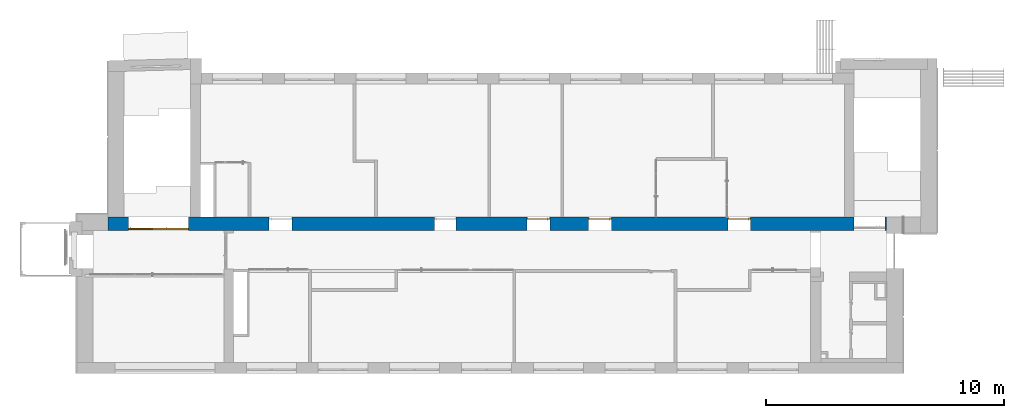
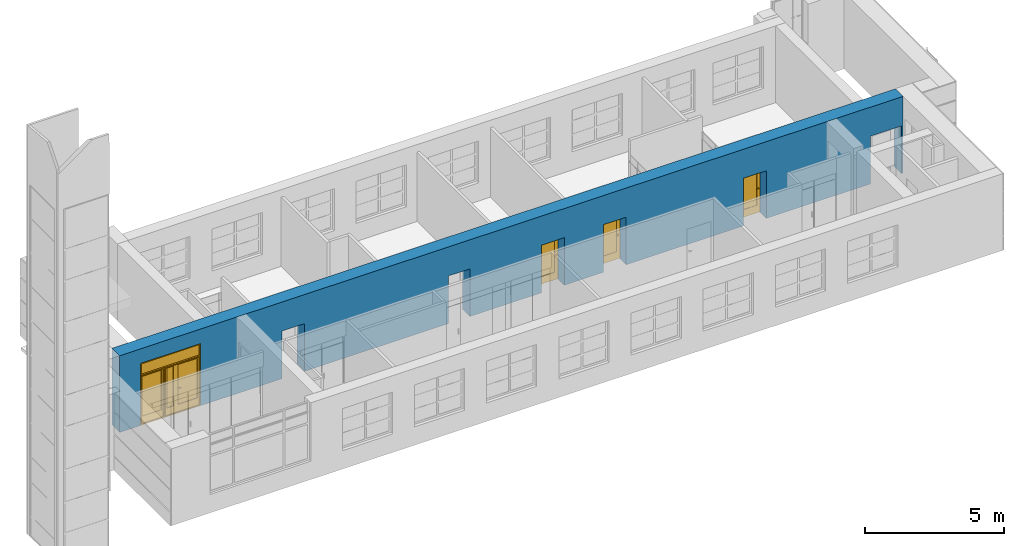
"""IFC2X3 building model written with IfcOpenShell, lengths in millimetres."""

from ifc_helpers import new_model, entity, si_unit, converted_unit, derived_unit, direction, frame, frame_2d, origin, origin_2d_with_axis, place, context, subcontext, project, spatial, rectangle, extrude, faceted_brep, source, transform, mapped, material, material_list, layer, layer_set, layer_usage, type_object, type_shapes, element, fill, save


model = new_model("IFC2X3")

# Units and contexts
model_context = context("Model", 3, precision=0.01, world=origin(), true_north=direction((6.12303176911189e-17, 1.0)))
body_context = subcontext(model_context, "Body", "Model", "MODEL_VIEW")
ifc_project = project(units=[si_unit("LENGTHUNIT", "METRE", prefix="MILLI"), si_unit("AREAUNIT", "SQUARE_METRE"), si_unit("VOLUMEUNIT", "CUBIC_METRE"), converted_unit("PLANEANGLEUNIT", "DEGREE", entity("IfcRatioMeasure", 0.0174532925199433), si_unit("PLANEANGLEUNIT", "RADIAN"), dimensions=[0, 0, 0, 0, 0, 0, 0]), si_unit("MASSUNIT", "GRAM", prefix="KILO"), derived_unit("MASSDENSITYUNIT", [(si_unit("MASSUNIT", "GRAM", prefix="KILO"), 1), (si_unit("LENGTHUNIT", "METRE"), -3)]), si_unit("TIMEUNIT", "SECOND"), si_unit("FREQUENCYUNIT", "HERTZ"), si_unit("THERMODYNAMICTEMPERATUREUNIT", "DEGREE_CELSIUS"), derived_unit("THERMALTRANSMITTANCEUNIT", [(si_unit("MASSUNIT", "GRAM", prefix="KILO"), 1), (si_unit("THERMODYNAMICTEMPERATUREUNIT", "KELVIN"), -1), (si_unit("TIMEUNIT", "SECOND"), -3)]), derived_unit("VOLUMETRICFLOWRATEUNIT", [(si_unit("LENGTHUNIT", "METRE"), 3), (si_unit("TIMEUNIT", "SECOND"), -1)]), si_unit("ELECTRICCURRENTUNIT", "AMPERE"), si_unit("ELECTRICVOLTAGEUNIT", "VOLT"), si_unit("POWERUNIT", "WATT"), si_unit("FORCEUNIT", "NEWTON", prefix="KILO"), si_unit("ILLUMINANCEUNIT", "LUX"), si_unit("LUMINOUSFLUXUNIT", "LUMEN"), si_unit("LUMINOUSINTENSITYUNIT", "CANDELA"), derived_unit("USERDEFINED", [(si_unit("MASSUNIT", "GRAM", prefix="KILO"), -1), (si_unit("LENGTHUNIT", "METRE"), -2), (si_unit("TIMEUNIT", "SECOND"), 3), (si_unit("LUMINOUSFLUXUNIT", "LUMEN"), 1)]), derived_unit("LINEARVELOCITYUNIT", [(si_unit("LENGTHUNIT", "METRE"), 1), (si_unit("TIMEUNIT", "SECOND"), -1)]), si_unit("PRESSUREUNIT", "PASCAL"), derived_unit("USERDEFINED", [(si_unit("LENGTHUNIT", "METRE"), -2), (si_unit("MASSUNIT", "GRAM", prefix="KILO"), 1), (si_unit("TIMEUNIT", "SECOND"), -2)])], contexts=[model_context])

# Site, building, storey
site_placement = place(None, frame((-151.875543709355, 2715.0, 0.0)))
site = spatial("IfcSite", under=ifc_project, at=site_placement, Name="Surface", CompositionType="ELEMENT")
building_placement = place(site_placement, origin())
building = spatial("IfcBuilding", under=site, at=building_placement, CompositionType="ELEMENT")
storey_1_placement = place(building_placement, frame((0.0, 0.0, 3350.0)))
storey_1 = spatial("IfcBuildingStorey", under=building, at=storey_1_placement, Name="2 korrus", CompositionType="ELEMENT", Elevation=3350.00000000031)

# Wall, openings, doors
ifc_material_1 = material(Name="__Kips GN13_tava")
ifc_layer_1 = layer(ifc_material_1, 20.0)
ifc_material_2 = material(Name="Masonry - Brick")
ifc_layer_2 = layer(ifc_material_2, 510.0)
ifc_layer_3 = layer(ifc_material_1, 20.0)
ifc_layer_set = layer_set([ifc_layer_1, ifc_layer_2, ifc_layer_3], Name="Basic Wall:SS-1")
ifc_layer_usage = layer_usage(ifc_layer_set, "AXIS2", "POSITIVE", -275.0)
wall_type = type_object("IfcWallType", Name="Basic Wall:SS-1", PredefinedType="STANDARD", material=ifc_layer_set)
wall_placement = place(storey_1_placement, frame((1091.0, 6285.0, 0.0)))
wall = element("IfcWallStandardCase", 1, at=wall_placement, inside=storey_1, type_object=wall_type, material=ifc_layer_usage, Name="SEIN - 002", ObjectType="Basic Wall:SS-1", context=body_context, shape_type="SweptSolid", body=[
    extrude(rectangle(XDim=32650.6162682, YDim=550.000000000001, at=frame_2d((16325.3081341, 0.0), x_axis=(-1.0, 0.0))), origin(), (0.0, 0.0, 1.0), 3380.43203354),
])
opening_1_placement = place(wall_placement, origin())
element("IfcOpeningElement", 2, at=opening_1_placement, cuts=wall, Name="SEIN - 002", ObjectType="Opening", context=body_context, shape_type="SweptSolid", body=[
    extrude(rectangle(XDim=2099.99999999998, YDim=950.000000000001, at=origin_2d_with_axis()), frame((17904.2662258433, -1249.0, 4430.4300000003), z_axis=(0.0, 1.0, 0.0), x_axis=(0.0, 0.0, 1.0)), (0.0, 0.0, 1.0), 3048.0),
])
opening_2_placement = place(wall_placement, origin())
element("IfcOpeningElement", 3, at=opening_2_placement, cuts=wall, Name="SEIN - 002", ObjectType="Opening", context=body_context, shape_type="SweptSolid", body=[
    extrude(rectangle(XDim=2099.99999999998, YDim=950.000000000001, at=frame_2d((0.0, -1.02318153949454e-12), x_axis=(0.0, 1.0))), frame((13565.3323530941, -1249.0, 4430.4300000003), z_axis=(0.0, 1.0, 0.0), x_axis=(-1.0, 0.0, 0.0)), (0.0, 0.0, 1.0), 3048.0),
])
opening_3_placement = place(wall_placement, origin())
element("IfcOpeningElement", 4, at=opening_3_placement, cuts=wall, Name="SEIN - 002", ObjectType="Opening", context=body_context, shape_type="SweptSolid", body=[
    extrude(rectangle(XDim=2099.99999999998, YDim=950.0, at=frame_2d((5.40012479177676e-13, -1.02318153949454e-12), x_axis=(0.0, 1.0))), frame((6696.84934805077, -1249.0, 4430.4300000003), z_axis=(0.0, 1.0, 0.0), x_axis=(-1.0, 0.0, 0.0)), (0.0, 0.0, 1.0), 3048.0),
])
opening_4_placement = place(wall_placement, origin())
element("IfcOpeningElement", 5, at=opening_4_placement, cuts=wall, Name="SEIN - 002", ObjectType="Opening", context=body_context, shape_type="SweptSolid", body=[
    extrude(rectangle(XDim=2099.99999999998, YDim=950.000000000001, at=origin_2d_with_axis()), frame((20485.37701032, -1249.0, 4430.4300000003), z_axis=(0.0, 1.0, 0.0), x_axis=(0.0, 0.0, 1.0)), (0.0, 0.0, 1.0), 3048.0),
])
opening_5_placement = place(wall_placement, origin())
element("IfcOpeningElement", 6, at=opening_5_placement, cuts=wall, Name="SEIN - 002", ObjectType="Opening", context=body_context, shape_type="SweptSolid", body=[
    extrude(rectangle(XDim=2099.99999999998, YDim=950.000000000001, at=frame_2d((5.6843418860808e-13, 0.0), x_axis=(1.0, 0.0))), frame((23450.99163952, -1249.0, 4430.42999999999), z_axis=(0.0, 1.0, 0.0), x_axis=(0.0, 0.0, 1.0)), (0.0, 0.0, 1.0), 3048.0),
])
opening_6_placement = place(wall_placement, origin())
element("IfcOpeningElement", 7, at=opening_6_placement, cuts=wall, Name="SEIN - 002", ObjectType="Opening", context=body_context, shape_type="SweptSolid", body=[
    extrude(rectangle(XDim=2099.99999999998, YDim=950.000000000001, at=frame_2d((0.0, -5.6843418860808e-13), x_axis=(0.0, 1.0))), frame((11346.81982462, -1249.0, 4430.42999999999), z_axis=(0.0, 1.0, 0.0), x_axis=(-1.0, 0.0, 0.0)), (0.0, 0.0, 1.0), 3048.0),
])
opening_7_placement = place(wall_placement, origin())
element("IfcOpeningElement", 8, at=opening_7_placement, cuts=wall, Name="SEIN - 002", ObjectType="Opening", context=body_context, shape_type="SweptSolid", body=[
    extrude(rectangle(XDim=2199.99999999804, YDim=1000.0, at=frame_2d((-2.8421709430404e-13, 0.0), x_axis=(0.0, 1.0))), frame((1367.76756733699, -1799.0, 4480.42999999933), z_axis=(0.0, 1.0, 0.0), x_axis=(-1.0, 0.0, 0.0)), (0.0, 0.0, 1.0), 3048.0),
])
opening_8_placement = place(wall_placement, origin())
element("IfcOpeningElement", 9, at=opening_8_placement, cuts=wall, Name="SEIN - 002", ObjectType="Opening", context=body_context, shape_type="SweptSolid", body=[
    extrude(rectangle(XDim=2199.99999999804, YDim=1500.0, at=frame_2d((-2.27373675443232e-13, 0.0), x_axis=(0.0, 1.0))), frame((2617.76756733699, -1799.0, 4480.42999999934), z_axis=(0.0, 1.0, 0.0), x_axis=(-1.0, 0.0, 0.0)), (0.0, 0.0, 1.0), 3048.0),
])
opening_9_placement = place(wall_placement, frame((31281.6162682, -275.0, 0.0)))
element("IfcOpeningElement", 10, at=opening_9_placement, cuts=wall, Name="Kahepoolsed:SU-11:1", ObjectType="Opening", context=body_context, shape_type="SweptSolid", body=[
    extrude(rectangle(XDim=2099.99999999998, YDim=1300.0, at=frame_2d((1049.99999999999, 650.0), x_axis=(1.0, 0.0))), frame((0.0, 0.0, 0.0), z_axis=(0.0, 1.0, 0.0), x_axis=(0.0, 0.0, 1.0)), (0.0, 0.0, 1.0), 550.0),
])
opening_10_placement = place(wall_placement, frame((21105.0626236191, 275.0, 0.0)))
opening_10 = element("IfcOpeningElement", 11, at=opening_10_placement, cuts=wall, Name="Ühepoolsed:SU-03.:1", ObjectType="Opening", context=body_context, shape_type="SweptSolid", body=[
    extrude(rectangle(XDim=2099.99999999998, YDim=950.0, at=frame_2d((1049.99999999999, 475.0), x_axis=(1.0, 0.0))), frame((0.0, 0.0, 0.0), z_axis=(0.0, -1.0, 0.0), x_axis=(0.0, 0.0, 1.0)), (0.0, 0.0, 1.0), 550.0),
])
opening_11_placement = place(wall_placement, frame((7707.77332100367, 275.0, 0.0)))
element("IfcOpeningElement", 12, at=opening_11_placement, cuts=wall, Name="Ühepoolsed:SU-03:1", ObjectType="Opening", context=body_context, shape_type="SweptSolid", body=[
    extrude(rectangle(XDim=2099.99999999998, YDim=950.0, at=frame_2d((1049.99999999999, 475.0), x_axis=(1.0, 0.0))), frame((0.0, 0.0, 0.0), z_axis=(0.0, -1.0, 0.0), x_axis=(0.0, 0.0, 1.0)), (0.0, 0.0, 1.0), 550.0),
])
opening_12_placement = place(wall_placement, frame((14597.5448846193, 275.0, 0.0)))
element("IfcOpeningElement", 13, at=opening_12_placement, cuts=wall, Name="Ühepoolsed:SU-02:1", ObjectType="Opening", context=body_context, shape_type="SweptSolid", body=[
    extrude(rectangle(XDim=2099.99999999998, YDim=900.0, at=frame_2d((1049.99999999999, 450.000000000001), x_axis=(1.0, 0.0))), frame((0.0, 0.0, 0.0), z_axis=(0.0, -1.0, 0.0), x_axis=(0.0, 0.0, 1.0)), (0.0, 0.0, 1.0), 550.0),
])
opening_13_placement = place(wall_placement, frame((18525.5552876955, 275.0, 0.0)))
opening_13 = element("IfcOpeningElement", 14, at=opening_13_placement, cuts=wall, Name="Ühepoolsed:SU-03.:1", ObjectType="Opening", context=body_context, shape_type="SweptSolid", body=[
    extrude(rectangle(XDim=2099.99999999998, YDim=950.0, at=frame_2d((1049.99999999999, 475.0), x_axis=(1.0, 0.0))), frame((0.0, 0.0, 0.0), z_axis=(0.0, -1.0, 0.0), x_axis=(0.0, 0.0, 1.0)), (0.0, 0.0, 1.0), 550.0),
])
opening_14_placement = place(wall_placement, frame((26947.3095754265, 275.0, 0.0)))
opening_14 = element("IfcOpeningElement", 15, at=opening_14_placement, cuts=wall, Name="Ühepoolsed:SU-03.:1", ObjectType="Opening", context=body_context, shape_type="SweptSolid", body=[
    extrude(rectangle(XDim=2099.99999999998, YDim=950.0, at=frame_2d((1049.99999999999, 475.0), x_axis=(1.0, 0.0))), frame((0.0, 0.0, 0.0), z_axis=(0.0, -1.0, 0.0), x_axis=(0.0, 0.0, 1.0)), (0.0, 0.0, 1.0), 550.0),
])
opening_15_placement = place(wall_placement, frame((1867.76756733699, -275.0, 0.0)))
opening_15 = element("IfcOpeningElement", 16, at=opening_15_placement, cuts=wall, Name="Kahepoolsed:SU-17:1", ObjectType="Opening", context=body_context, shape_type="SweptSolid", body=[
    extrude(rectangle(XDim=2199.99999999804, YDim=1500.0, at=frame_2d((1099.99999999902, 750.0), x_axis=(1.0, 0.0))), frame((0.0, 0.0, 0.0), z_axis=(0.0, 1.0, 0.0), x_axis=(0.0, 0.0, 1.0)), (0.0, 0.0, 1.0), 550.0),
])
opening_16_placement = place(wall_placement, frame((867.767567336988, -275.0, 0.0)))
opening_16 = element("IfcOpeningElement", 17, at=opening_16_placement, cuts=wall, Name="Aken ukse kohal:SU-1500_aken:1", ObjectType="Opening", context=body_context, shape_type="SweptSolid", body=[
    extrude(rectangle(XDim=2199.99999999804, YDim=1000.0, at=frame_2d((1099.99999999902, 500.0), x_axis=(1.0, 0.0))), frame((0.0, 0.0, 0.0), z_axis=(0.0, 1.0, 0.0), x_axis=(0.0, 0.0, 1.0)), (0.0, 0.0, 1.0), 550.0),
])
opening_17_placement = place(wall_placement, frame((867.767567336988, -275.0, 2200.0)))
opening_17 = element("IfcOpeningElement", 18, at=opening_17_placement, cuts=wall, Name="Ühepoolsed:SU17_ülemine:1", ObjectType="Opening", context=body_context, shape_type="SweptSolid", body=[
    extrude(rectangle(XDim=539.999999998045, YDim=2500.0, at=frame_2d((269.999999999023, 1250.0), x_axis=(1.0, 0.0))), frame((0.0, 0.0, 0.0), z_axis=(0.0, 1.0, 0.0), x_axis=(0.0, 0.0, 1.0)), (0.0, 0.0, 1.0), 550.0),
])
ifc_material_3 = material(Name="_Alumiiniumprofiil - must")
ifc_material_4 = material(Name="__Uks_hele tamm")
ifc_material_5 = material(Name="Glass")
ifc_material_list_1 = material_list([ifc_material_3, ifc_material_4, ifc_material_5])
ifc_material_list_2 = material_list([ifc_material_3, ifc_material_4, ifc_material_5])
door_style_1 = type_object("IfcDoorStyle", Name="SU-03.", ConstructionType="NOTDEFINED", OperationType="FOLDING_TO_LEFT", ParameterTakesPrecedence=False, Sizeable=False, material=ifc_material_list_2)
shared_shape_1 = source(origin(), body_context, "Body", "Brep", [
    faceted_brep([(100.0, 10.0, 1112.5), (100.0, 48.0, 1112.5), (75.0, 48.0, 1112.5), (75.0, 5.0, 1112.5), (195.0, 5.0, 1112.5), (195.0, 10.0, 1112.5), (100.0, 10.0, 1087.5), (195.0, 10.0, 1087.5), (195.0, 5.0, 1087.5), (75.0, 5.0, 1087.5), (75.0, 48.0, 1087.5), (100.0, 48.0, 1087.5)], [[[0, 1, 2, 3, 4, 5]], [[6, 7, 8, 9, 10, 11]], [[1, 0, 6, 11]], [[2, 1, 11, 10]], [[3, 2, 10, 9]], [[4, 3, 9, 8]], [[5, 4, 8, 7]], [[0, 5, 7, 6]]]),
    faceted_brep([(112.500000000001, 48.0, 1137.5), (112.500000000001, 50.0, 1137.5), (62.5000000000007, 50.0, 1137.5), (62.5000000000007, 48.0, 1137.5), (112.500000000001, 48.0, 1017.5), (62.5000000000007, 48.0, 1017.5), (62.5000000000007, 50.0, 1017.5), (112.500000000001, 50.0, 1017.5)], [[[0, 1, 2, 3]], [[4, 5, 6, 7]], [[1, 0, 4, 7]], [[2, 1, 7, 6]], [[3, 2, 6, 5]], [[0, 3, 5, 4]]]),
    faceted_brep([(100.0, 140.0, 1112.5), (195.0, 140.0, 1112.5), (195.0, 145.0, 1112.5), (75.0, 145.0, 1112.5), (75.0, 102.0, 1112.5), (100.0, 102.0, 1112.5), (100.0, 140.0, 1087.5), (100.0, 102.0, 1087.5), (75.0, 102.0, 1087.5), (75.0, 145.0, 1087.5), (195.0, 145.0, 1087.5), (195.0, 140.0, 1087.5)], [[[0, 1, 2, 3, 4, 5]], [[6, 7, 8, 9, 10, 11]], [[5, 7, 6, 0]], [[4, 8, 7, 5]], [[3, 9, 8, 4]], [[2, 10, 9, 3]], [[1, 11, 10, 2]], [[0, 6, 11, 1]]]),
    faceted_brep([(112.500000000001, 102.0, 1137.5), (62.5000000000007, 102.0, 1137.5), (62.5000000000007, 100.0, 1137.5), (112.500000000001, 100.0, 1137.5), (112.500000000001, 102.0, 1017.5), (112.500000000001, 100.0, 1017.5), (62.5000000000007, 100.0, 1017.5), (62.5000000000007, 102.0, 1017.5)], [[[0, 1, 2, 3]], [[4, 5, 6, 7]], [[3, 5, 4, 0]], [[2, 6, 5, 3]], [[1, 7, 6, 2]], [[0, 4, 7, 1]]]),
    faceted_brep([(950.0, 10.0, 0.0), (910.0, 10.0, 0.0), (910.0, 50.0, 0.0), (925.0, 50.0, 0.0), (925.0, 100.0, 0.0), (950.0, 100.0, 0.0), (950.0, 10.0, 2100.0), (0.0, 10.0, 2100.0), (0.0, 10.0, 0.0), (40.0, 10.0, 0.0), (40.0, 10.0, 2060.0), (910.0, 10.0, 2060.0), (910.0, 50.0, 2060.0), (40.0, 50.0, 2060.0), (40.0, 50.0, 0.0), (25.0, 50.0, 0.0), (25.0, 50.0, 2075.0), (925.0, 50.0, 2075.0), (925.0, 100.0, 2075.0), (25.0, 100.0, 2075.0), (25.0, 100.0, 0.0), (0.0, 100.0, 0.0), (0.0, 100.0, 2100.0), (950.0, 100.0, 2100.0)], [[[0, 1, 2, 3, 4, 5]], [[1, 0, 6, 7, 8, 9, 10, 11]], [[2, 1, 11, 12]], [[3, 2, 12, 13, 14, 15, 16, 17]], [[4, 3, 17, 18]], [[5, 4, 18, 19, 20, 21, 22, 23]], [[0, 5, 23, 6]], [[8, 7, 22, 21]], [[9, 8, 21, 20, 15, 14]], [[10, 9, 14, 13]], [[16, 15, 20, 19]], [[11, 10, 13, 12]], [[17, 16, 19, 18]], [[7, 6, 23, 22]]]),
    faceted_brep([(810.0, 65.0, 350.0), (810.0, 65.0, 1960.0), (140.0, 65.0, 1960.0), (140.0, 65.0, 350.0), (810.0, 85.0, 350.0), (140.0, 85.0, 350.0), (140.0, 85.0, 1960.0), (810.0, 85.0, 1960.0)], [[[0, 1, 2, 3]], [[4, 5, 6, 7]], [[1, 0, 4, 7]], [[2, 1, 7, 6]], [[3, 2, 6, 5]], [[0, 3, 5, 4]]]),
    faceted_brep([(925.0, 50.0, 20.0), (925.0, 50.0, 2075.0), (25.0, 50.0, 2075.0), (25.0, 50.0, 20.0), (140.0, 50.0, 350.0), (140.0, 50.0, 1960.0), (810.0, 50.0, 1960.0), (810.0, 50.0, 350.0), (925.0, 100.0, 20.0), (25.0, 100.0, 20.0), (25.0, 100.0, 2075.0), (925.0, 100.0, 2075.0), (140.0, 100.0, 1960.0), (140.0, 100.0, 350.0), (810.0, 100.0, 350.0), (810.0, 100.0, 1960.0)], [[[0, 1, 2, 3], [4, 5, 6, 7]], [[8, 9, 10, 11], [12, 13, 14, 15]], [[1, 0, 8, 11]], [[2, 1, 11, 10]], [[3, 2, 10, 9]], [[0, 3, 9, 8]], [[12, 5, 4, 13]], [[13, 4, 7, 14]], [[14, 7, 6, 15]], [[5, 12, 15, 6]]]),
])
type_shapes(door_style_1, [shared_shape_1])
door_1_placement = place(opening_10_placement, frame((0.0, 0.0, 0.0), z_axis=(0.0, 0.0, 1.0), x_axis=(-1.0, 0.0, 0.0)))
door_1 = element("IfcDoor", 19, at=door_1_placement, inside=storey_1, type_object=door_style_1, material=ifc_material_list_1, Name="Ühepoolsed:SU-03.", ObjectType="SU-03.", OverallHeight=2099.99999999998, OverallWidth=950.000000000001, context=body_context, shape_type="MappedRepresentation", body=[
    mapped(shared_shape_1, transform((0.0, 0.0, 0.0), scale=1.0)),
])
fill(opening_10, door_1)
ifc_material_list_3 = material_list([ifc_material_3, ifc_material_4, ifc_material_5])
door_2_placement = place(opening_13_placement, frame((0.0, 0.0, 0.0), z_axis=(0.0, 0.0, 1.0), x_axis=(-1.0, 0.0, 0.0)))
door_2 = element("IfcDoor", 20, at=door_2_placement, inside=storey_1, type_object=door_style_1, material=ifc_material_list_3, Name="Ühepoolsed:SU-03.", ObjectType="SU-03.", OverallHeight=2099.99999999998, OverallWidth=950.000000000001, context=body_context, shape_type="MappedRepresentation", body=[
    mapped(shared_shape_1, transform((0.0, 0.0, 0.0), scale=1.0)),
])
fill(opening_13, door_2)
ifc_material_list_4 = material_list([ifc_material_3, ifc_material_4, ifc_material_5])
door_3_placement = place(opening_14_placement, frame((0.0, 0.0, 0.0), z_axis=(0.0, 0.0, 1.0), x_axis=(-1.0, 0.0, 0.0)))
door_3 = element("IfcDoor", 21, at=door_3_placement, inside=storey_1, type_object=door_style_1, material=ifc_material_list_4, Name="Ühepoolsed:SU-03.", ObjectType="SU-03.", OverallHeight=2099.99999999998, OverallWidth=950.000000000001, context=body_context, shape_type="MappedRepresentation", body=[
    mapped(shared_shape_1, transform((0.0, 0.0, 0.0), scale=1.0)),
])
fill(opening_14, door_3)
ifc_material_6 = material(Name="EP Tavallinen lasi")
ifc_material_list_5 = material_list([ifc_material_4, ifc_material_6])
ifc_material_list_6 = material_list([ifc_material_4, ifc_material_6])
door_style_2 = type_object("IfcDoorStyle", Name="SU-1500_aken", ConstructionType="NOTDEFINED", OperationType="SINGLE_SWING_RIGHT", ParameterTakesPrecedence=False, Sizeable=False, material=ifc_material_list_6)
shared_shape_2 = source(origin(), body_context, "Body", "Brep", [
    faceted_brep([(960.0, 50.0, 40.0), (960.0, 10.0, 40.0), (960.0, 10.0, 2160.0), (960.0, 50.0, 2160.0), (975.0, 100.0, 25.0), (975.0, 50.0, 25.0), (975.0, 50.0, 2175.0), (975.0, 100.0, 2175.0), (1000.0, 10.0, 0.0), (1000.0, 100.0, 0.0), (1000.0, 100.0, 2200.0), (1000.0, 10.0, 2200.0), (40.0, 10.0, 2160.0), (40.0, 50.0, 2160.0), (25.0, 50.0, 2175.0), (25.0, 100.0, 2175.0), (0.0, 100.0, 2200.0), (0.0, 10.0, 2200.0), (40.0, 10.0, 40.0), (40.0, 50.0, 40.0), (25.0, 50.0, 25.0), (25.0, 100.0, 25.0), (0.0, 100.0, 0.0), (0.0, 10.0, 0.0)], [[[0, 1, 2, 3]], [[4, 5, 6, 7]], [[8, 9, 10, 11]], [[3, 2, 12, 13]], [[7, 6, 14, 15]], [[11, 10, 16, 17]], [[13, 12, 18, 19]], [[15, 14, 20, 21]], [[17, 16, 22, 23]], [[2, 1, 18, 12], [8, 11, 17, 23]], [[1, 0, 19, 18]], [[0, 3, 13, 19], [6, 5, 20, 14]], [[5, 4, 21, 20]], [[4, 7, 15, 21], [10, 9, 22, 16]], [[9, 8, 23, 22]]], outer=[[True], [True], [True], [True], [True], [True], [True], [True], [True], [False, True], [True], [False, True], [True], [False, True], [True]]),
    faceted_brep([(900.0, 65.0, 350.0), (900.0, 65.0, 2100.0), (100.0, 65.0, 2100.0), (100.0, 65.0, 350.0), (900.0, 85.0, 350.0), (100.0, 85.0, 350.0), (100.0, 85.0, 2100.0), (900.0, 85.0, 2100.0)], [[[0, 1, 2, 3]], [[4, 5, 6, 7]], [[1, 0, 4, 7]], [[2, 1, 7, 6]], [[3, 2, 6, 5]], [[0, 3, 5, 4]]]),
    faceted_brep([(975.0, 50.0, 20.0), (975.0, 50.0, 2175.0), (25.0, 50.0, 2175.0), (25.0, 50.0, 20.0), (100.0, 50.0, 350.0), (100.0, 50.0, 2100.0), (900.0, 50.0, 2100.0), (900.0, 50.0, 350.0), (975.0, 100.0, 20.0), (25.0, 100.0, 20.0), (25.0, 100.0, 2175.0), (975.0, 100.0, 2175.0), (100.0, 100.0, 2100.0), (100.0, 100.0, 350.0), (900.0, 100.0, 350.0), (900.0, 100.0, 2100.0)], [[[0, 1, 2, 3], [4, 5, 6, 7]], [[8, 9, 10, 11], [12, 13, 14, 15]], [[1, 0, 8, 11]], [[2, 1, 11, 10]], [[3, 2, 10, 9]], [[0, 3, 9, 8]], [[12, 5, 4, 13]], [[13, 4, 7, 14]], [[14, 7, 6, 15]], [[5, 12, 15, 6]]]),
])
type_shapes(door_style_2, [shared_shape_2])
door_4_placement = place(opening_16_placement, origin())
door_4 = element("IfcDoor", 22, at=door_4_placement, inside=storey_1, type_object=door_style_2, material=ifc_material_list_5, Name="Aken ukse kohal:SU-1500_aken", ObjectType="SU-1500_aken", OverallHeight=2199.99999999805, OverallWidth=1000.0, context=body_context, shape_type="MappedRepresentation", body=[
    mapped(shared_shape_2, transform((0.0, 0.0, 0.0), scale=1.0)),
])
fill(opening_16, door_4)
ifc_material_list_7 = material_list([ifc_material_3, ifc_material_4, ifc_material_6])
ifc_material_list_8 = material_list([ifc_material_3, ifc_material_4, ifc_material_6])
door_style_3 = type_object("IfcDoorStyle", Name="SU-17", ConstructionType="NOTDEFINED", OperationType="FOLDING_TO_RIGHT", ParameterTakesPrecedence=False, Sizeable=False, material=ifc_material_list_8)
shared_shape_3 = source(origin(), body_context, "Body", "Brep", [
    faceted_brep([(587.499999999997, 10.0, 1100.0), (587.499999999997, 48.0, 1100.0), (562.499999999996, 48.0, 1100.0), (562.499999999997, 5.0, 1100.0), (682.499999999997, 5.0, 1100.0), (682.499999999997, 10.0, 1100.0), (587.499999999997, 10.0, 1075.0), (682.499999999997, 10.0, 1075.0), (682.499999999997, 5.0, 1075.0), (562.499999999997, 5.0, 1075.0), (562.499999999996, 48.0, 1075.0), (587.499999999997, 48.0, 1075.0)], [[[0, 1, 2, 3, 4, 5]], [[6, 7, 8, 9, 10, 11]], [[1, 0, 6, 11]], [[2, 1, 11, 10]], [[3, 2, 10, 9]], [[4, 3, 9, 8]], [[5, 4, 8, 7]], [[0, 5, 7, 6]]]),
    faceted_brep([(600.0, 48.0, 1125.0), (600.0, 50.0, 1125.0), (550.0, 50.0, 1125.0), (550.0, 48.0, 1125.0), (600.0, 48.0, 1005.0), (550.0, 48.0, 1005.0), (550.0, 50.0, 1005.0), (600.0, 50.0, 1005.0)], [[[0, 1, 2, 3]], [[4, 5, 6, 7]], [[1, 0, 4, 7]], [[2, 1, 7, 6]], [[3, 2, 6, 5]], [[0, 3, 5, 4]]]),
    faceted_brep([(587.499999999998, 140.0, 1100.0), (682.499999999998, 140.0, 1100.0), (682.499999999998, 145.0, 1100.0), (562.499999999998, 145.0, 1100.0), (562.499999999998, 102.0, 1100.0), (587.499999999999, 102.0, 1100.0), (587.499999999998, 140.0, 1075.0), (587.499999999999, 102.0, 1075.0), (562.499999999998, 102.0, 1075.0), (562.499999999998, 145.0, 1075.0), (682.499999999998, 145.0, 1075.0), (682.499999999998, 140.0, 1075.0)], [[[0, 1, 2, 3, 4, 5]], [[6, 7, 8, 9, 10, 11]], [[5, 7, 6, 0]], [[4, 8, 7, 5]], [[3, 9, 8, 4]], [[2, 10, 9, 3]], [[1, 11, 10, 2]], [[0, 6, 11, 1]]]),
    faceted_brep([(600.0, 102.0, 1125.0), (550.0, 102.0, 1125.0), (550.0, 100.0, 1125.0), (600.0, 100.0, 1125.0), (600.0, 102.0, 1005.0), (600.0, 100.0, 1005.0), (550.0, 100.0, 1005.0), (550.0, 102.0, 1005.0)], [[[0, 1, 2, 3]], [[4, 5, 6, 7]], [[3, 5, 4, 0]], [[2, 6, 5, 3]], [[1, 7, 6, 2]], [[0, 4, 7, 1]]]),
    faceted_brep([(1460.0, 10.0, 30.0), (1460.0, 10.0, 0.0), (1460.0, 50.0, 0.0), (1460.0, 50.0, 20.0), (1460.0, 50.0, 30.0), (40.0, 10.0, 30.0), (40.0, 50.0, 30.0), (40.0, 50.0, 20.0), (40.0, 50.0, 0.0), (40.0, 10.0, 0.0), (25.0, 50.0, 0.0), (25.0, 100.0, 0.0), (1475.0, 100.0, 0.0), (1475.0, 50.0, 0.0), (1475.0, 100.0, 20.0), (1475.0, 50.0, 20.0), (25.0, 100.0, 20.0), (25.0, 50.0, 20.0)], [[[0, 1, 2, 3, 4]], [[5, 6, 7, 8, 9]], [[1, 0, 5, 9]], [[2, 1, 9, 8, 10, 11, 12, 13]], [[6, 4, 3, 7]], [[0, 4, 6, 5]], [[14, 15, 13, 12]], [[16, 11, 10, 17]], [[15, 14, 16, 17, 7, 3]], [[13, 15, 3, 2]], [[14, 12, 11, 16]], [[17, 10, 8, 7]]]),
    faceted_brep([(1500.0, 10.0, 0.0), (1460.0, 10.0, 0.0), (1460.0, 50.0, 0.0), (1475.0, 50.0, 0.0), (1475.0, 100.0, 0.0), (1500.0, 100.0, 0.0), (1500.0, 10.0, 2200.0), (0.0, 10.0, 2200.0), (0.0, 10.0, 0.0), (40.0, 10.0, 0.0), (40.0, 10.0, 2160.0), (1460.0, 10.0, 2160.0), (1460.0, 50.0, 2160.0), (40.0, 50.0, 2160.0), (40.0, 50.0, 0.0), (25.0, 50.0, 0.0), (25.0, 50.0, 2175.0), (1475.0, 50.0, 2175.0), (1475.0, 100.0, 2175.0), (25.0, 100.0, 2175.0), (25.0, 100.0, 0.0), (0.0, 100.0, 0.0), (0.0, 100.0, 2200.0), (1500.0, 100.0, 2200.0)], [[[0, 1, 2, 3, 4, 5]], [[1, 0, 6, 7, 8, 9, 10, 11]], [[2, 1, 11, 12]], [[3, 2, 12, 13, 14, 15, 16, 17]], [[4, 3, 17, 18]], [[5, 4, 18, 19, 20, 21, 22, 23]], [[0, 5, 23, 6]], [[8, 7, 22, 21]], [[9, 8, 21, 20, 15, 14]], [[10, 9, 14, 13]], [[16, 15, 20, 19]], [[11, 10, 13, 12]], [[17, 16, 19, 18]], [[7, 6, 23, 22]]]),
    faceted_brep([(125.0, 65.0, 350.0), (400.0, 65.0, 350.0), (400.0, 65.0, 2100.0), (125.0, 65.0, 2100.0), (125.0, 85.0, 350.0), (125.0, 85.0, 2100.0), (400.0, 85.0, 2100.0), (400.0, 85.0, 350.0)], [[[0, 1, 2, 3]], [[4, 5, 6, 7]], [[1, 0, 4, 7]], [[2, 1, 7, 6]], [[3, 2, 6, 5]], [[0, 3, 5, 4]]]),
    faceted_brep([(600.0, 65.0, 350.0), (1400.0, 65.0, 350.0), (1400.0, 65.0, 2100.0), (600.0, 65.0, 2100.0), (600.0, 85.0, 350.0), (600.0, 85.0, 2100.0), (1400.0, 85.0, 2100.0), (1400.0, 85.0, 350.0)], [[[0, 1, 2, 3]], [[4, 5, 6, 7]], [[1, 0, 4, 7]], [[2, 1, 7, 6]], [[3, 2, 6, 5]], [[0, 3, 5, 4]]]),
    faceted_brep([(500.0, 50.0, 2175.0), (25.0, 50.0, 2175.0), (25.0, 50.0, 20.0), (500.0, 50.0, 20.0), (125.0, 50.0, 350.0), (125.0, 50.0, 2100.0), (400.0, 50.0, 2100.0), (400.0, 50.0, 350.0), (500.0, 100.0, 2175.0), (500.0, 100.0, 20.0), (25.0, 100.0, 20.0), (25.0, 100.0, 2175.0), (125.0, 100.0, 2100.0), (125.0, 100.0, 350.0), (400.0, 100.0, 350.0), (400.0, 100.0, 2100.0)], [[[0, 1, 2, 3], [4, 5, 6, 7]], [[8, 9, 10, 11], [12, 13, 14, 15]], [[1, 0, 8, 11]], [[2, 1, 11, 10]], [[3, 2, 10, 9]], [[0, 3, 9, 8]], [[12, 5, 4, 13]], [[13, 4, 7, 14]], [[14, 7, 6, 15]], [[5, 12, 15, 6]]]),
    faceted_brep([(500.0, 50.0, 2175.0), (500.0, 50.0, 20.0), (1475.0, 50.0, 20.0), (1475.0, 50.0, 2175.0), (600.0, 50.0, 350.0), (600.0, 50.0, 2100.0), (1400.0, 50.0, 2100.0), (1400.0, 50.0, 350.0), (500.0, 100.0, 2175.0), (1475.0, 100.0, 2175.0), (1475.0, 100.0, 20.0), (500.0, 100.0, 20.0), (600.0, 100.0, 2100.0), (600.0, 100.0, 350.0), (1400.0, 100.0, 350.0), (1400.0, 100.0, 2100.0)], [[[0, 1, 2, 3], [4, 5, 6, 7]], [[8, 9, 10, 11], [12, 13, 14, 15]], [[1, 0, 8, 11]], [[2, 1, 11, 10]], [[3, 2, 10, 9]], [[0, 3, 9, 8]], [[12, 5, 4, 13]], [[13, 4, 7, 14]], [[14, 7, 6, 15]], [[5, 12, 15, 6]]]),
])
type_shapes(door_style_3, [shared_shape_3])
door_5_placement = place(opening_15_placement, origin())
door_5 = element("IfcDoor", 23, at=door_5_placement, inside=storey_1, type_object=door_style_3, material=ifc_material_list_7, Name="Kahepoolsed:SU-17", ObjectType="SU-17", OverallHeight=2199.99999999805, OverallWidth=1500.0, context=body_context, shape_type="MappedRepresentation", body=[
    mapped(shared_shape_3, transform((0.0, 0.0, 0.0), scale=1.0)),
])
fill(opening_15, door_5)

# Storey
storey_2_placement = place(building_placement, frame((0.0, 0.0, 3875.0)))
storey_2 = spatial("IfcBuildingStorey", under=building, at=storey_2_placement, Name="uus 2 korrus", CompositionType="ELEMENT", Elevation=3875.00000000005)

# Door
ifc_material_list_9 = material_list([ifc_material_3, ifc_material_4])
ifc_material_list_10 = material_list([ifc_material_3, ifc_material_4])
door_style_4 = type_object("IfcDoorStyle", Name="SU17_ülemine", ConstructionType="NOTDEFINED", OperationType="SINGLE_SWING_RIGHT", ParameterTakesPrecedence=False, Sizeable=False, material=ifc_material_list_10)
shared_shape_4 = source(origin(), body_context, "Body", "Brep", [
    faceted_brep([(100.0, 10.0, 1112.5), (100.0, 48.0, 1112.5), (75.0, 48.0, 1112.5), (75.0, 5.0, 1112.5), (195.0, 5.0, 1112.5), (195.0, 10.0, 1112.5), (100.0, 10.0, 1087.5), (195.0, 10.0, 1087.5), (195.0, 5.0, 1087.5), (75.0, 5.0, 1087.5), (75.0, 48.0, 1087.5), (100.0, 48.0, 1087.5)], [[[0, 1, 2, 3, 4, 5]], [[6, 7, 8, 9, 10, 11]], [[1, 0, 6, 11]], [[2, 1, 11, 10]], [[3, 2, 10, 9]], [[4, 3, 9, 8]], [[5, 4, 8, 7]], [[0, 5, 7, 6]]]),
    faceted_brep([(112.500000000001, 48.0, 1137.5), (112.500000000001, 50.0, 1137.5), (62.5000000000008, 50.0, 1137.5), (62.5000000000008, 48.0, 1137.5), (112.500000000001, 48.0, 1017.5), (62.5000000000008, 48.0, 1017.5), (62.5000000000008, 50.0, 1017.5), (112.500000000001, 50.0, 1017.5)], [[[0, 1, 2, 3]], [[4, 5, 6, 7]], [[1, 0, 4, 7]], [[2, 1, 7, 6]], [[3, 2, 6, 5]], [[0, 3, 5, 4]]]),
    faceted_brep([(100.0, 140.0, 1112.5), (195.0, 140.0, 1112.5), (195.0, 145.0, 1112.5), (75.0, 145.0, 1112.5), (75.0, 102.0, 1112.5), (100.0, 102.0, 1112.5), (100.0, 140.0, 1087.5), (100.0, 102.0, 1087.5), (75.0, 102.0, 1087.5), (75.0, 145.0, 1087.5), (195.0, 145.0, 1087.5), (195.0, 140.0, 1087.5)], [[[0, 1, 2, 3, 4, 5]], [[6, 7, 8, 9, 10, 11]], [[5, 7, 6, 0]], [[4, 8, 7, 5]], [[3, 9, 8, 4]], [[2, 10, 9, 3]], [[1, 11, 10, 2]], [[0, 6, 11, 1]]]),
    faceted_brep([(112.500000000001, 102.0, 1137.5), (62.5000000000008, 102.0, 1137.5), (62.5000000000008, 100.0, 1137.5), (112.500000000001, 100.0, 1137.5), (112.500000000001, 102.0, 1017.5), (112.500000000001, 100.0, 1017.5), (62.5000000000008, 100.0, 1017.5), (62.5000000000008, 102.0, 1017.5)], [[[0, 1, 2, 3]], [[4, 5, 6, 7]], [[3, 5, 4, 0]], [[2, 6, 5, 3]], [[1, 7, 6, 2]], [[0, 4, 7, 1]]]),
    faceted_brep([(2500.0, 10.0, 0.0), (2460.0, 10.0, 0.0), (2460.0, 50.0, 0.0), (2475.0, 50.0, 0.0), (2475.0, 100.0, 0.0), (2500.0, 100.0, 0.0), (2500.0, 10.0, 540.0), (0.0, 10.0, 540.0), (0.0, 10.0, 0.0), (40.0, 10.0, 0.0), (40.0, 10.0, 500.0), (2460.0, 10.0, 500.0), (2460.0, 50.0, 500.0), (40.0, 50.0, 500.0), (40.0, 50.0, 0.0), (25.0, 50.0, 0.0), (25.0, 50.0, 515.0), (2475.0, 50.0, 515.0), (2475.0, 100.0, 515.0), (25.0, 100.0, 515.0), (25.0, 100.0, 0.0), (0.0, 100.0, 0.0), (0.0, 100.0, 540.0), (2500.0, 100.0, 540.0)], [[[0, 1, 2, 3, 4, 5]], [[1, 0, 6, 7, 8, 9, 10, 11]], [[2, 1, 11, 12]], [[3, 2, 12, 13, 14, 15, 16, 17]], [[4, 3, 17, 18]], [[5, 4, 18, 19, 20, 21, 22, 23]], [[0, 5, 23, 6]], [[8, 7, 22, 21]], [[9, 8, 21, 20, 15, 14]], [[10, 9, 14, 13]], [[16, 15, 20, 19]], [[11, 10, 13, 12]], [[17, 16, 19, 18]], [[7, 6, 23, 22]]]),
    faceted_brep([(25.0, 50.0, 515.0), (25.0, 50.0, 20.0), (2475.0, 50.0, 20.0), (2475.0, 50.0, 515.0), (25.0, 100.0, 515.0), (2475.0, 100.0, 515.0), (2475.0, 100.0, 20.0), (25.0, 100.0, 20.0)], [[[0, 1, 2, 3]], [[4, 5, 6, 7]], [[1, 0, 4, 7]], [[2, 1, 7, 6]], [[3, 2, 6, 5]], [[0, 3, 5, 4]]]),
])
type_shapes(door_style_4, [shared_shape_4])
door_6_placement = place(opening_17_placement, origin())
door_6 = element("IfcDoor", 24, at=door_6_placement, inside=storey_2, type_object=door_style_4, material=ifc_material_list_9, Name="Ühepoolsed:SU17_ülemine", ObjectType="SU17_ülemine", OverallHeight=539.999999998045, OverallWidth=2500.0, context=body_context, shape_type="MappedRepresentation", body=[
    mapped(shared_shape_4, transform((0.0, 0.0, 0.0), scale=1.0)),
])

fill(opening_17, door_6)

save(model, "model.ifc")
